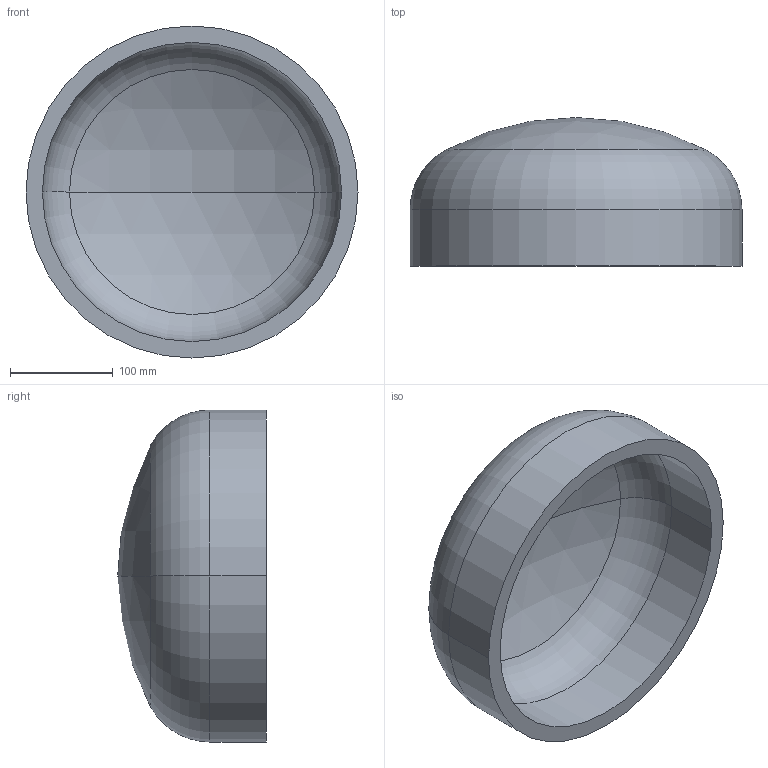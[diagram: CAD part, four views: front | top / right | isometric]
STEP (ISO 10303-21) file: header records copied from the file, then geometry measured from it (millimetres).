
FILE_DESCRIPTION (( 'STEP AP203' ), '1' );
FILE_NAME ('DIN 28013 Korbbogenform_-_Boden DIN 28013 - 323,9 x 55 - I - s=16.step', '2016-07-01T07:44:29', ( '' ), ( '' ), 'SwSTEP 2.0', 'SolidWorks 2013', '' );
FILE_SCHEMA (( 'CONFIG_CONTROL_DESIGN' ));
Length unit declared in the file: millimetre
Products named in the file (1): DIN 28013 Korbbogenform_-_Boden DIN 28013 - 323,9 x 55 - I - s=16
Bounding box: 323.9 x 144.97 x 323.9 mm (x, y, z)
Volume: 2567618 mm3; surface area: 336965.1 mm2
Topology: 1 solids, 1 shells, 13 faces, 24 edges, 14 vertices
Faces by surface type: torus 4, cylinder 4, sphere 4, plane 1
Entity records: 407 total; most frequent: DIRECTION 72, CARTESIAN_POINT 52, ORIENTED_EDGE 48, AXIS2_PLACEMENT_3D 34, EDGE_CURVE 24, CIRCLE 20, VERTEX_POINT 14, EDGE_LOOP 14
